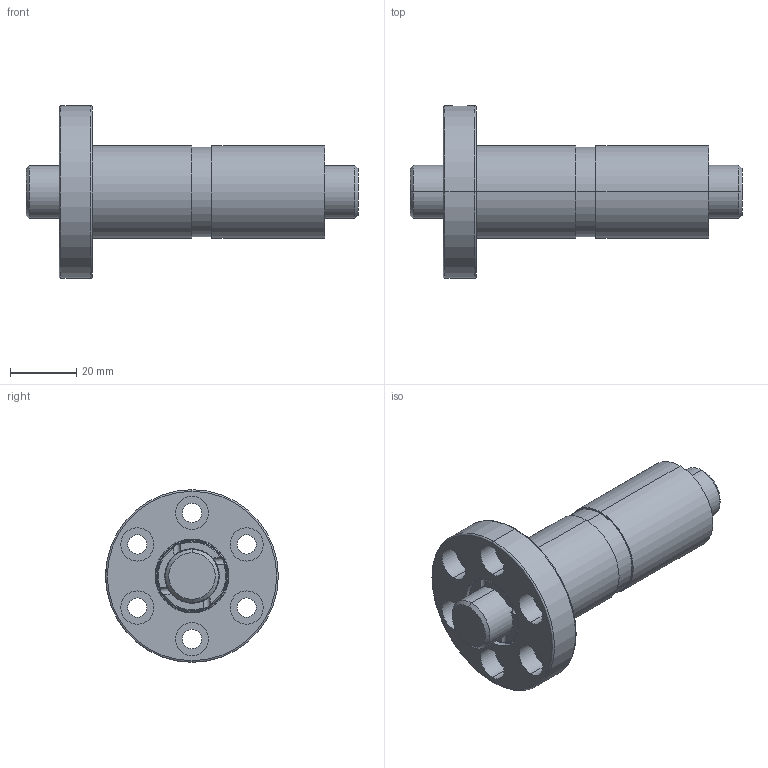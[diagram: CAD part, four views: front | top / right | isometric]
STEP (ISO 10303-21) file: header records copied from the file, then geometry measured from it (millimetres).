
FILE_DESCRIPTION (( 'STEP AP203' ), '1' );
FILE_NAME ('DFZR01604T4N-C.STEP', '2020-06-18T01:16:14', ( '' ), ( '' ), 'SwSTEP 2.0', 'SolidWorks 2013', '' );
FILE_SCHEMA (( 'CONFIG_CONTROL_DESIGN' ));
Length unit declared in the file: millimetre
Products named in the file (1): DFZR01604T4N-C
Bounding box: 100 x 52 x 52 mm (x, y, z)
Volume: 61385.9 mm3; surface area: 24074.4 mm2
Topology: 2 solids, 2 shells, 130 faces, 308 edges, 196 vertices
Faces by surface type: cylinder 74, plane 30, torus 22, cone 4
Entity records: 4263 total; most frequent: CARTESIAN_POINT 1071, DIRECTION 704, ORIENTED_EDGE 616, AXIS2_PLACEMENT_3D 311, EDGE_CURVE 308, VERTEX_POINT 196, CIRCLE 180, EDGE_LOOP 162
